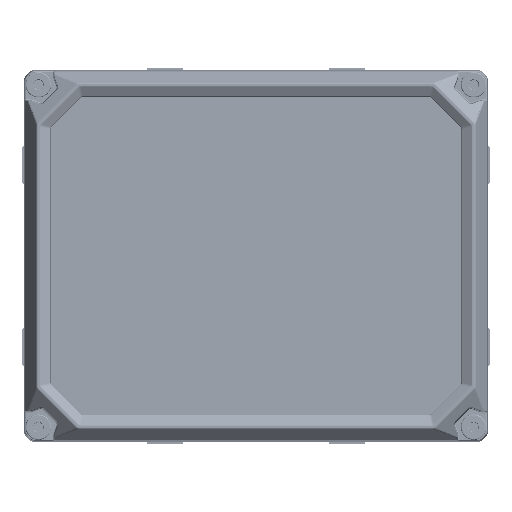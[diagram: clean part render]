
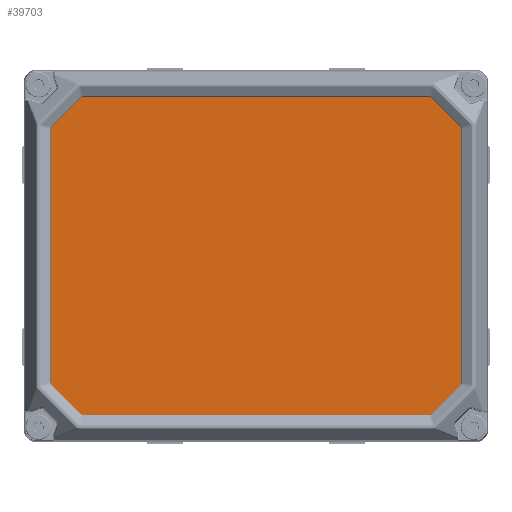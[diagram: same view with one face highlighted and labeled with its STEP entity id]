
A CAD part, top view. The second image highlights one B-rep face of the part: STEP entity #39703.
In plain terms, the highlighted planar face has unit normal (0, 0, 1).
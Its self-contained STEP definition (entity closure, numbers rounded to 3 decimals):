
#34024=FACE_OUTER_BOUND('',#50014,.T.);
#39703=ADVANCED_FACE('',(#34024),#44474,.F.);
#44474=PLANE('',#117981);
#45642=ELLIPSE('',#117973,1.001,1.);
#45643=ELLIPSE('',#117974,1.001,1.);
#45644=ELLIPSE('',#117975,1.001,1.);
#45645=ELLIPSE('',#117976,1.001,1.);
#45646=ELLIPSE('',#117977,1.001,1.);
#45647=ELLIPSE('',#117978,1.001,1.);
#45648=ELLIPSE('',#117979,1.001,1.);
#45649=ELLIPSE('',#117980,1.001,1.);
#50014=EDGE_LOOP('',(#66143,#66144,#66145,#66146,#66147,#66148,#66149,#66150,
#66151,#66152,#66153,#66154,#66155,#66156,#66157,#66158));
#66143=ORIENTED_EDGE('',*,*,#96063,.T.);
#66144=ORIENTED_EDGE('',*,*,#96064,.T.);
#66145=ORIENTED_EDGE('',*,*,#96065,.T.);
#66146=ORIENTED_EDGE('',*,*,#96066,.T.);
#66147=ORIENTED_EDGE('',*,*,#96067,.T.);
#66148=ORIENTED_EDGE('',*,*,#96068,.T.);
#66149=ORIENTED_EDGE('',*,*,#96069,.T.);
#66150=ORIENTED_EDGE('',*,*,#96070,.T.);
#66151=ORIENTED_EDGE('',*,*,#96071,.T.);
#66152=ORIENTED_EDGE('',*,*,#96072,.T.);
#66153=ORIENTED_EDGE('',*,*,#96073,.T.);
#66154=ORIENTED_EDGE('',*,*,#96074,.T.);
#66155=ORIENTED_EDGE('',*,*,#96075,.T.);
#66156=ORIENTED_EDGE('',*,*,#96076,.T.);
#66157=ORIENTED_EDGE('',*,*,#96077,.T.);
#66158=ORIENTED_EDGE('',*,*,#96078,.T.);
#86326=VERTEX_POINT('',#179191);
#86327=VERTEX_POINT('',#179192);
#86328=VERTEX_POINT('',#179194);
#86329=VERTEX_POINT('',#179196);
#86330=VERTEX_POINT('',#179198);
#86331=VERTEX_POINT('',#179200);
#86332=VERTEX_POINT('',#179202);
#86333=VERTEX_POINT('',#179204);
#86334=VERTEX_POINT('',#179206);
#86335=VERTEX_POINT('',#179208);
#86336=VERTEX_POINT('',#179210);
#86337=VERTEX_POINT('',#179212);
#86338=VERTEX_POINT('',#179214);
#86339=VERTEX_POINT('',#179216);
#86340=VERTEX_POINT('',#179218);
#86341=VERTEX_POINT('',#179220);
#96063=EDGE_CURVE('',#86326,#86327,#106910,.T.);
#96064=EDGE_CURVE('',#86327,#86328,#45642,.T.);
#96065=EDGE_CURVE('',#86328,#86329,#106911,.T.);
#96066=EDGE_CURVE('',#86329,#86330,#45643,.T.);
#96067=EDGE_CURVE('',#86330,#86331,#106912,.T.);
#96068=EDGE_CURVE('',#86331,#86332,#45644,.T.);
#96069=EDGE_CURVE('',#86332,#86333,#106913,.T.);
#96070=EDGE_CURVE('',#86333,#86334,#45645,.T.);
#96071=EDGE_CURVE('',#86334,#86335,#106914,.T.);
#96072=EDGE_CURVE('',#86335,#86336,#45646,.T.);
#96073=EDGE_CURVE('',#86336,#86337,#106915,.T.);
#96074=EDGE_CURVE('',#86337,#86338,#45647,.T.);
#96075=EDGE_CURVE('',#86338,#86339,#106916,.T.);
#96076=EDGE_CURVE('',#86339,#86340,#45648,.T.);
#96077=EDGE_CURVE('',#86340,#86341,#106917,.T.);
#96078=EDGE_CURVE('',#86341,#86326,#45649,.T.);
#106910=LINE('',#179190,#112056);
#106911=LINE('',#179195,#112057);
#106912=LINE('',#179199,#112058);
#106913=LINE('',#179203,#112059);
#106914=LINE('',#179207,#112060);
#106915=LINE('',#179211,#112061);
#106916=LINE('',#179215,#112062);
#106917=LINE('',#179219,#112063);
#112056=VECTOR('',#133125,1.);
#112057=VECTOR('',#133128,1.);
#112058=VECTOR('',#133131,1.);
#112059=VECTOR('',#133134,1.);
#112060=VECTOR('',#133137,1.);
#112061=VECTOR('',#133140,1.);
#112062=VECTOR('',#133143,1.);
#112063=VECTOR('',#133146,1.);
#117973=AXIS2_PLACEMENT_3D('',#179193,#133126,#133127);
#117974=AXIS2_PLACEMENT_3D('',#179197,#133129,#133130);
#117975=AXIS2_PLACEMENT_3D('',#179201,#133132,#133133);
#117976=AXIS2_PLACEMENT_3D('',#179205,#133135,#133136);
#117977=AXIS2_PLACEMENT_3D('',#179209,#133138,#133139);
#117978=AXIS2_PLACEMENT_3D('',#179213,#133141,#133142);
#117979=AXIS2_PLACEMENT_3D('',#179217,#133144,#133145);
#117980=AXIS2_PLACEMENT_3D('',#179221,#133147,#133148);
#117981=AXIS2_PLACEMENT_3D('',#179222,#133149,#133150);
#133125=DIRECTION('',(-0.707,0.707,0.));
#133126=DIRECTION('',(0.,0.,1.));
#133127=DIRECTION('',(0.383,0.924,0.));
#133128=DIRECTION('',(-1.,0.,0.));
#133129=DIRECTION('',(0.,0.,1.));
#133130=DIRECTION('',(-0.383,0.924,0.));
#133131=DIRECTION('',(-0.707,-0.707,0.));
#133132=DIRECTION('',(0.,0.,1.));
#133133=DIRECTION('',(-0.924,0.383,0.));
#133134=DIRECTION('',(0.,-1.,0.));
#133135=DIRECTION('',(0.,0.,1.));
#133136=DIRECTION('',(-0.924,-0.383,0.));
#133137=DIRECTION('',(0.707,-0.707,0.));
#133138=DIRECTION('',(0.,0.,1.));
#133139=DIRECTION('',(-0.383,-0.924,0.));
#133140=DIRECTION('',(1.,0.,0.));
#133141=DIRECTION('',(0.,0.,1.));
#133142=DIRECTION('',(0.383,-0.924,0.));
#133143=DIRECTION('',(0.707,0.707,0.));
#133144=DIRECTION('',(0.,0.,1.));
#133145=DIRECTION('',(0.924,-0.383,0.));
#133146=DIRECTION('',(0.,1.,0.));
#133147=DIRECTION('',(0.,0.,1.));
#133148=DIRECTION('',(0.924,0.383,0.));
#133149=DIRECTION('',(0.,0.,-1.));
#133150=DIRECTION('',(0.,-1.,0.));
#179190=CARTESIAN_POINT('',(46.96,42.8,70.5));
#179191=CARTESIAN_POINT('',(55.007,34.753,70.5));
#179192=CARTESIAN_POINT('',(47.253,42.507,70.5));
#179193=CARTESIAN_POINT('',(46.546,41.799,70.5));
#179194=CARTESIAN_POINT('',(46.546,42.8,70.5));
#179195=CARTESIAN_POINT('',(-46.96,42.8,70.5));
#179196=CARTESIAN_POINT('',(-46.546,42.8,70.5));
#179197=CARTESIAN_POINT('',(-46.546,41.799,70.5));
#179198=CARTESIAN_POINT('',(-47.253,42.507,70.5));
#179199=CARTESIAN_POINT('',(-55.3,34.46,70.5));
#179200=CARTESIAN_POINT('',(-55.007,34.753,70.5));
#179201=CARTESIAN_POINT('',(-54.299,34.046,70.5));
#179202=CARTESIAN_POINT('',(-55.3,34.046,70.5));
#179203=CARTESIAN_POINT('',(-55.3,-34.46,70.5));
#179204=CARTESIAN_POINT('',(-55.3,-34.046,70.5));
#179205=CARTESIAN_POINT('',(-54.299,-34.046,70.5));
#179206=CARTESIAN_POINT('',(-55.007,-34.753,70.5));
#179207=CARTESIAN_POINT('',(-46.96,-42.8,70.5));
#179208=CARTESIAN_POINT('',(-47.253,-42.507,70.5));
#179209=CARTESIAN_POINT('',(-46.546,-41.799,70.5));
#179210=CARTESIAN_POINT('',(-46.546,-42.8,70.5));
#179211=CARTESIAN_POINT('',(46.96,-42.8,70.5));
#179212=CARTESIAN_POINT('',(46.546,-42.8,70.5));
#179213=CARTESIAN_POINT('',(46.546,-41.799,70.5));
#179214=CARTESIAN_POINT('',(47.253,-42.507,70.5));
#179215=CARTESIAN_POINT('',(55.3,-34.46,70.5));
#179216=CARTESIAN_POINT('',(55.007,-34.753,70.5));
#179217=CARTESIAN_POINT('',(54.299,-34.046,70.5));
#179218=CARTESIAN_POINT('',(55.3,-34.046,70.5));
#179219=CARTESIAN_POINT('',(55.3,34.46,70.5));
#179220=CARTESIAN_POINT('',(55.3,34.046,70.5));
#179221=CARTESIAN_POINT('',(54.299,34.046,70.5));
#179222=CARTESIAN_POINT('',(-46.747,-42.285,70.5));
